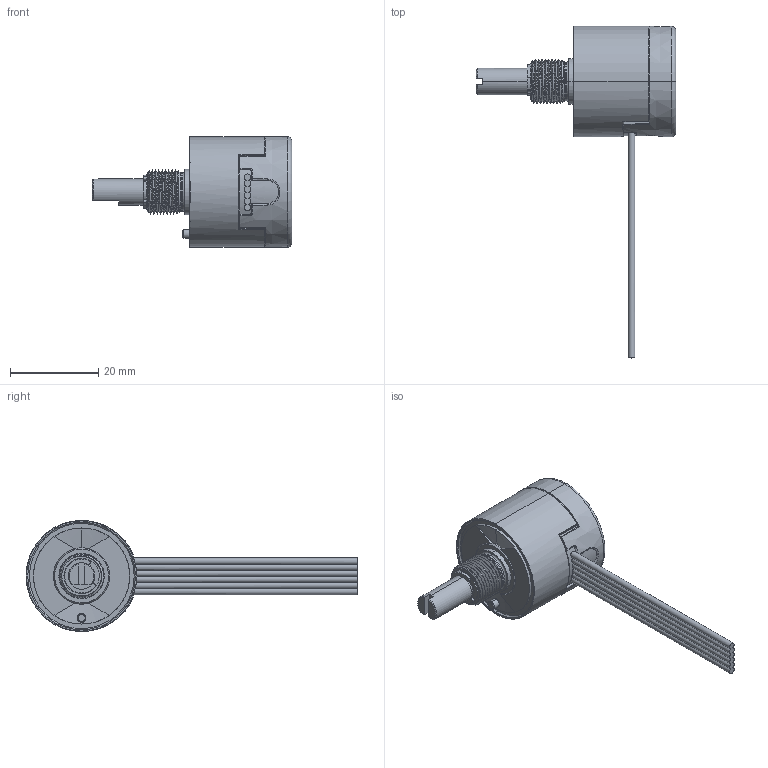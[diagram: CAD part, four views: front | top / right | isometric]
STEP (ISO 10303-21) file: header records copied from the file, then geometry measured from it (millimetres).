
FILE_DESCRIPTION (( 'STEP AP203' ), '1' );
FILE_NAME ('EZA25PM_FBL.STEP', '2026-06-15T14:28:57', ( '' ), ( '' ), 'SwSTEP 2.0', 'SolidWorks 2024', '' );
FILE_SCHEMA (( 'CONFIG_CONTROL_DESIGN' ));
Length unit declared in the file: millimetre
Products named in the file (1): EZA25PM_FBL
Bounding box: 45.3 x 75.3 x 25.21 mm (x, y, z)
Volume: 12840.8 mm3; surface area: 4896.7 mm2
Topology: 3 solids, 3 shells, 292 faces, 771 edges, 501 vertices
Faces by surface type: plane 141, cylinder 78, bspline 38, torus 17, cone 16, sphere 2
Entity records: 11595 total; most frequent: CARTESIAN_POINT 4645, ORIENTED_EDGE 1534, DIRECTION 1286, EDGE_CURVE 767, VERTEX_POINT 499, AXIS2_PLACEMENT_3D 433, VECTOR 420, LINE 420
